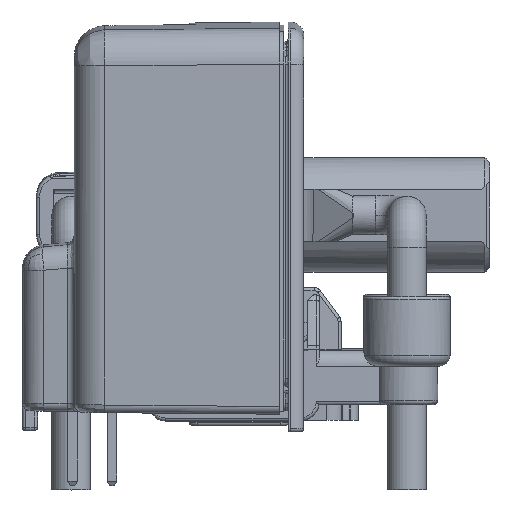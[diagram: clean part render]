
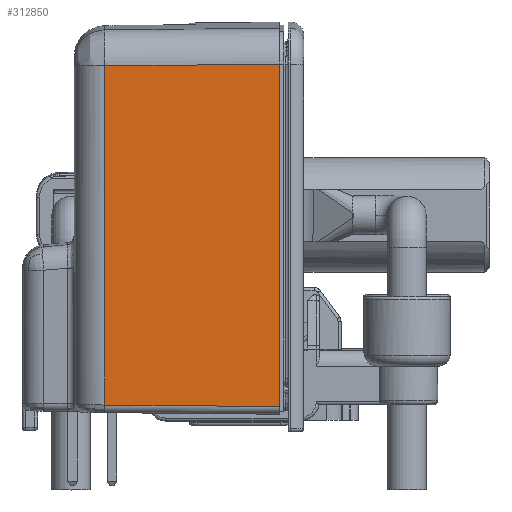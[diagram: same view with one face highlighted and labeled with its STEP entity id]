
A CAD part, front view. The second image highlights one B-rep face of the part: STEP entity #312850.
In plain terms, the highlighted planar face has unit normal (-0.009, -1, -0.01) as drawn and (-0.009, 1, -0.01) by its records, which use the part's own axes.
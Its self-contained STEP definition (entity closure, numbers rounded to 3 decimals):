
#309150=CARTESIAN_POINT('',(0.997,35.306,
12.335));
#309160=VERTEX_POINT('',#309150);
#309190=CARTESIAN_POINT('',(0.997,35.314,
13.192));
#309200=DIRECTION('',(0.,0.01,
1.));
#309210=VECTOR('',#309200,1.);
#309220=LINE('',#309190,#309210);
#309230=CARTESIAN_POINT('',(0.997,35.081,
-9.793));
#309240=VERTEX_POINT('',#309230);
#309250=EDGE_CURVE('',#309240,#309160,#309220,.T.);
#310000=CARTESIAN_POINT('',(-10.27,35.206,
12.238));
#310010=VERTEX_POINT('',#310000);
#310040=CARTESIAN_POINT('',(-10.757,35.202,
12.234));
#310050=DIRECTION('',(-1.,-0.009,
-0.009));
#310060=VECTOR('',#310050,1.);
#310070=LINE('',#310040,#310060);
#310080=EDGE_CURVE('',#309160,#310010,#310070,.T.);
#311260=CARTESIAN_POINT('',(-10.27,34.983,
-9.693));
#311270=VERTEX_POINT('',#311260);
#311300=CARTESIAN_POINT('',(-10.27,35.216,
13.172));
#311310=DIRECTION('',(0.,-0.01,
-1.));
#311320=VECTOR('',#311310,1.);
#311330=LINE('',#311300,#311320);
#311340=EDGE_CURVE('',#310010,#311270,#311330,.T.);
#312640=CARTESIAN_POINT('',(-10.773,34.979,
-9.689));
#312650=DIRECTION('',(-1.,-0.009,
0.009));
#312660=VECTOR('',#312650,1.);
#312670=LINE('',#312640,#312660);
#312680=EDGE_CURVE('',#309240,#311270,#312670,.T.);
#312740=CARTESIAN_POINT('',(-6.403,35.25,
13.192));
#312750=DIRECTION('',(0.009,-1.,
0.01));
#312760=DIRECTION('',(0.,0.01,
1.));
#312770=AXIS2_PLACEMENT_3D('',#312740,#312750,#312760);
#312780=PLANE('',#312770);
#312790=ORIENTED_EDGE('',*,*,#311340,.F.);
#312800=ORIENTED_EDGE('',*,*,#312680,.T.);
#312810=ORIENTED_EDGE('',*,*,#309250,.F.);
#312820=ORIENTED_EDGE('',*,*,#310080,.F.);
#312830=EDGE_LOOP('',(#312820,#312810,#312800,#312790));
#312840=FACE_OUTER_BOUND('',#312830,.T.);
#312850=ADVANCED_FACE('',(#312840),#312780,.F.);
